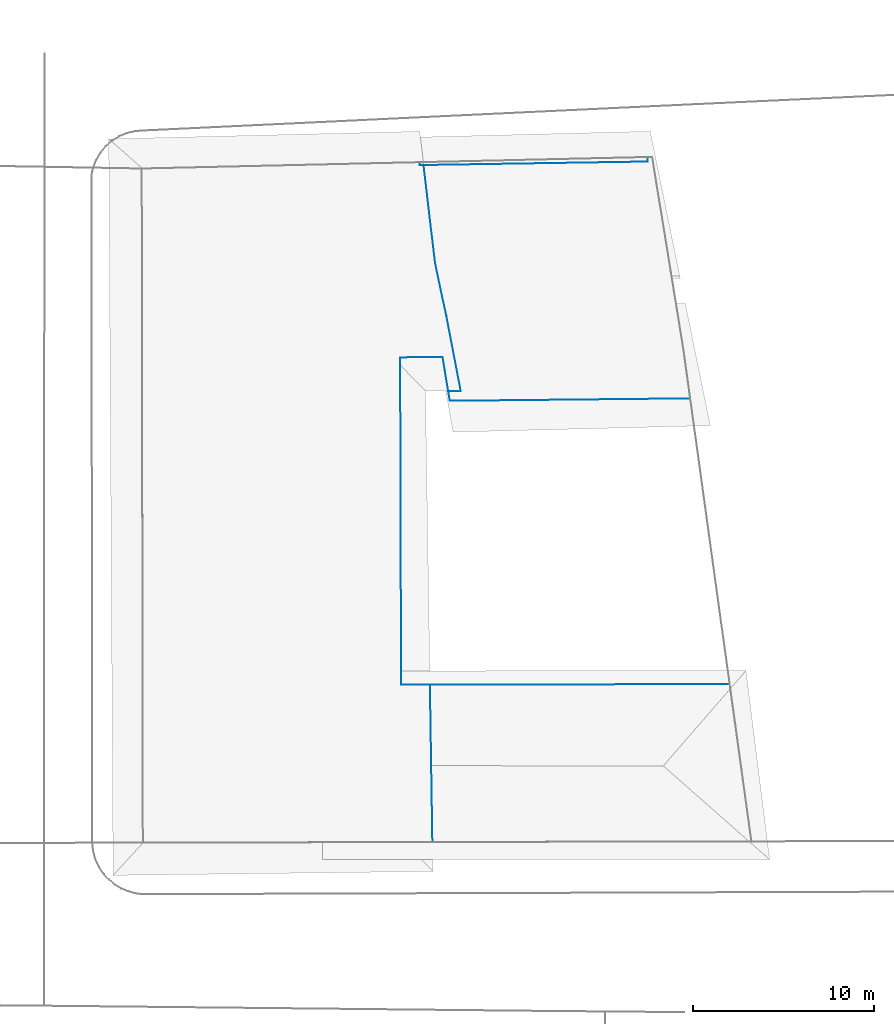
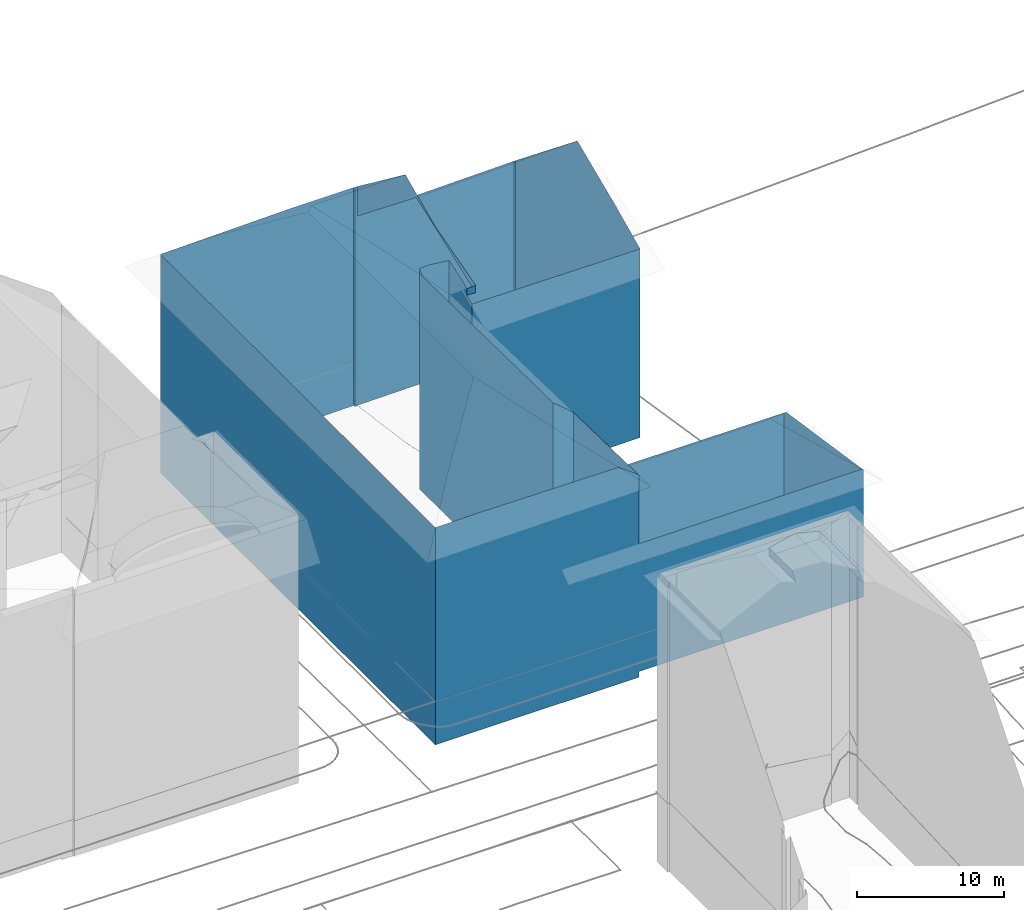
# Not in any storey, part 58 of 494: 1 wall.
"""IFC2X3 model written with IfcOpenShell, lengths in metres."""

from ifc_helpers import new_model, si_unit, frame, origin_with_axes, place, context, subcontext, project, faceted_brep, element, save


model = new_model("IFC2X3")

# Units and contexts
model_context = context("Model", 3, precision=1e-05, world=origin_with_axes())
body_context = subcontext(model_context, "Body", "Model", "MODEL_VIEW")
ifc_project = project(units=[si_unit("AREAUNIT", "SQUARE_METRE"), si_unit("LENGTHUNIT", "METRE")], contexts=[model_context])

# Wall
wall_placement = place(None, frame((658.1087320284, 463.8807160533, 539.0134), z_axis=(0.0, 0.0, 1.0), x_axis=(1.0, 0.0, 0.0)))
element("IfcWall", 1, at=wall_placement, Name="Wall 0", context=body_context, shape_type="Brep", body=[
    faceted_brep([(16.8699999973, -8.1768000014, 19.4861), (16.8699999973, -8.1768000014, 19.5611), (17.6669999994, -12.3252000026, 16.8863), (17.6669999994, -12.3252000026, 16.2744), (17.6669999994, -12.3252000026, -0.0001), (17.6669999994, -12.3252000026, 0.0319), (16.9689999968, -12.3155000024, -0.0001), (16.9689999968, -12.3155000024, 0.0319), (16.2399999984, -5.2159000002, -0.0001), (16.2399999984, -5.2159000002, 0.0319), (16.8699999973, -8.1768000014, -0.0001), (16.8699999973, -8.1768000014, 0.0319), (15.6049999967, 0.1932999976, 0.0), (15.6049999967, 0.1932999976, 0.0319), (15.9579999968, -28.5850000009, 10.9529), (15.9579999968, -28.5850000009, 16.7933), (16.0279999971, -33.058600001, 14.4285), (16.0939999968, -37.2979000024, 16.8043), (16.0939999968, -37.2979000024, 11.0978), (15.9579999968, -28.5850000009, 0.4679), (16.0939999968, -37.2979000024, -0.0001), (15.9579999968, -28.5850000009, -0.0001), (17.0599999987, -12.8632999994, 9.932), (30.3709999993, -12.7294999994, 15.7154), (17.0599999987, -12.8632999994, 15.8714), (17.0599999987, -12.8632999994, 3.9915), (17.0599999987, -12.8632999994, 0.0319), (30.3709999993, -12.7294999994, 0.0319), (29.9799999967, -9.9043000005, 17.9002), (29.9799999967, -9.9043000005, 4.4985), (29.9799999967, -9.9043000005, 0.0319), (28.0159999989, 0.6367000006, 15.6804), (28.2659999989, 0.6405999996, 0.0319), (28.0159999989, 0.6367000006, 0.0319), (28.2659999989, 0.6405999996, 3.9446), (28.0189999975, 0.3867000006, 3.9936), (28.0189999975, 0.3867000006, 0.0319), (16.9689999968, -12.3155000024, 16.8453), (16.2399999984, -5.2159000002, 20.101), (16.2399999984, -5.2159000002, 22.2848), (16.4669999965, -6.2822999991, 20.9539), (15.6049999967, 0.1932999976, 18.2452), (15.6049999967, 0.1932999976, 15.7844), (15.3899999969, 0.1904000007, 0.0), (15.3859999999, 0.3495999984, 13.5657), (15.3899999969, 0.1904000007, 4.5615), (15.3899999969, 0.1904000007, 18.2472), (15.3899999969, 0.1904000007, 13.6856), (32.5579999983, -28.5489000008, 0.4678), (32.5579999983, -28.5489000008, 10.9138), (32.5909999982, -28.7871000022, 11.0988), (33.7629999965, -37.2608000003, 11.0358), (33.7629999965, -37.2608000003, 0.4678), (14.3099999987, -10.4561000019, -0.0001), (14.310999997, -10.884800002, 17.9362), (14.310999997, -10.884800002, -0.0001), (14.3099999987, -10.4561000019, 18.3202), (14.3609999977, -28.5879000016, 10.9569), (14.3549999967, -26.5196000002, 18.1262), (14.3549999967, -26.5196000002, -0.0001), (14.3609999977, -28.5879000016, 0.4679), (14.3609999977, -28.5879000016, -0.0001), (14.3609999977, -28.5879000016, 18.1222), (14.9199999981, -10.4532000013, 18.3652), (16.6599999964, -10.4463, -0.0001), (16.6599999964, -10.4463, 18.1712), (14.9199999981, -10.4532000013, -0.0001), (0.0219999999, -13.4013999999, -0.0001), (0.0599999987, -37.3321000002, -0.0001), (0.0219999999, -13.4013999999, 18.1612), (0.0599999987, -37.3321000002, 18.0872), (0.0, 0.0, 18.1502), (0.0, 0.0, 0.0), (14.6489999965, -28.5870000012, 17.9062), (28.2659999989, 0.6405999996, 15.6824), (29.3379999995, -5.9561000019, 20.9539), (29.3379999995, -5.9561000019, 0.0319), (28.0189999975, 0.3867000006, 11.9178), (28.0189999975, 0.3867000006, 15.8794), (0.0399999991, 0.0009000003, 18.1792), (9.9649999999, 0.2265000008, 18.2122), (15.3859999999, 0.3495999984, 9.0041), (9.9649999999, 0.2265000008, 0.0), (13.8099999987, 0.3143999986, 18.1542), (15.3859999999, 0.3495999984, 18.1272), (13.8099999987, 0.3143999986, 0.0), (15.3859999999, 0.3495999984, 0.0), (16.8819999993, -11.7901000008, -0.0001), (16.9689999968, -12.3155000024, 16.2954), (16.8819999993, -11.7901000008, 17.3093), (33.629999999, -37.2608000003, 11.1398), (3.6889999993, -37.3243000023, 18.0972), (16.0939999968, -37.2979000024, 0.4678), (33.629999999, -37.2608000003, 0.4678), (14.5039999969, -37.3007999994, -0.0001), (15.8889999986, -37.2979000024, 16.9783), (14.5039999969, -37.3007999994, 18.0152), (3.6889999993, -37.3243000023, -0.0001)], [[[0, 1, 2]], [[2, 3, 0]], [[4, 5, 6]], [[7, 6, 5]], [[8, 9, 10]], [[11, 10, 9]], [[12, 13, 9]], [[9, 8, 12]], [[14, 15, 16]], [[16, 17, 18]], [[17, 16, 15]], [[19, 20, 21]], [[22, 23, 24]], [[25, 26, 27]], [[25, 27, 22]], [[28, 23, 29]], [[23, 27, 30]], [[31, 32, 33]], [[31, 34, 32]], [[35, 31, 33]], [[35, 33, 36]], [[10, 11, 4]], [[5, 4, 11]], [[2, 37, 3]], [[38, 39, 40]], [[40, 1, 0]], [[1, 40, 39]], [[41, 38, 42]], [[43, 44, 45]], [[46, 47, 44]], [[48, 49, 50]], [[50, 51, 52]], [[50, 52, 48]], [[53, 54, 55]], [[54, 53, 56]], [[57, 55, 54]], [[54, 58, 57]], [[57, 59, 55]], [[59, 60, 61]], [[60, 59, 57]], [[57, 58, 62]], [[63, 64, 65]], [[56, 66, 64]], [[53, 66, 56]], [[56, 64, 63]], [[67, 68, 69]], [[69, 68, 70]], [[71, 72, 67]], [[71, 67, 69]], [[57, 62, 73]], [[57, 73, 15]], [[60, 57, 19]], [[14, 57, 15]], [[19, 57, 14]], [[14, 48, 19]], [[61, 60, 19]], [[21, 61, 19]], [[14, 49, 48]], [[74, 75, 28]], [[28, 34, 74]], [[29, 34, 28]], [[34, 29, 76]], [[32, 34, 76]], [[30, 76, 29]], [[77, 45, 47]], [[43, 45, 13]], [[13, 12, 43]], [[13, 45, 35]], [[47, 46, 42]], [[41, 42, 46]], [[42, 78, 77]], [[13, 35, 36]], [[35, 45, 77]], [[42, 77, 47]], [[71, 79, 80]], [[81, 72, 71]], [[81, 82, 72]], [[71, 80, 44]], [[83, 84, 44]], [[44, 81, 71]], [[85, 81, 86]], [[85, 82, 81]], [[80, 83, 44]], [[26, 25, 7]], [[7, 25, 87]], [[6, 7, 87]], [[25, 64, 87]], [[25, 22, 64]], [[88, 37, 89]], [[88, 89, 65]], [[22, 88, 65]], [[24, 88, 22]], [[65, 64, 22]], [[51, 90, 18]], [[18, 17, 91]], [[51, 18, 92]], [[93, 52, 51]], [[93, 51, 92]], [[18, 94, 92]], [[95, 96, 91]], [[18, 91, 70]], [[18, 70, 68]], [[20, 92, 94]], [[97, 18, 68]], [[18, 97, 94]], [[95, 91, 17]], [[92, 20, 19]], [[27, 23, 22]], [[23, 30, 29]], [[74, 34, 31]], [[78, 31, 77]], [[35, 77, 31]], [[37, 88, 3]], [[39, 38, 41]], [[81, 44, 43]], [[43, 86, 81]], [[46, 44, 84]], [[47, 45, 44]]]),
])

save(model, "model.ifc")
